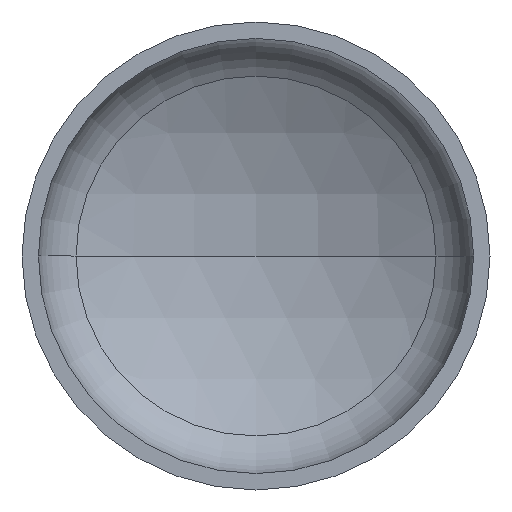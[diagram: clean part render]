
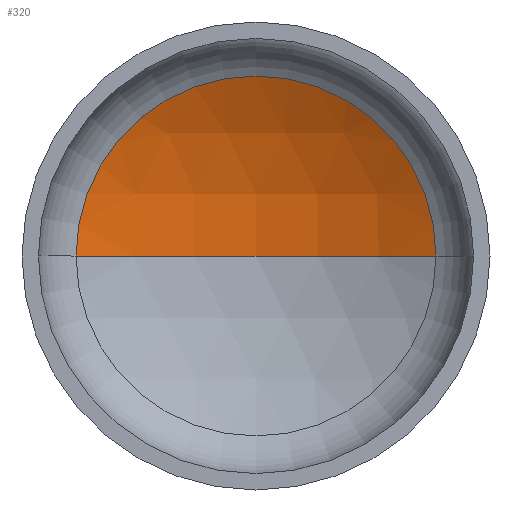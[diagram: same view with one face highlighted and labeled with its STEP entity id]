
A CAD part, front view. The second image highlights one B-rep face of the part: STEP entity #320.
In plain terms, the highlighted spherical face has radius 800 mm.
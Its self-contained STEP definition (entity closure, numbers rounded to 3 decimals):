
#10 = AXIS2_PLACEMENT_3D ( 'NONE', #154, #159, #140 ) ;
#13 = AXIS2_PLACEMENT_3D ( 'NONE', #274, #193, #395 ) ;
#15 = EDGE_LOOP ( 'NONE', ( #78, #64, #17 ) ) ;
#17 = ORIENTED_EDGE ( 'NONE', *, *, #369, .T. ) ;
#23 = VERTEX_POINT ( 'NONE', #377 ) ;
#25 = AXIS2_PLACEMENT_3D ( 'NONE', #161, #325, #188 ) ;
#30 = AXIS2_PLACEMENT_3D ( 'NONE', #48, #92, #74 ) ;
#48 = CARTESIAN_POINT ( 'NONE',  ( 0., -455.619, 0. ) ) ;
#64 = ORIENTED_EDGE ( 'NONE', *, *, #373, .T. ) ;
#74 = DIRECTION ( 'NONE',  ( -1., 0., 0. ) ) ;
#78 = ORIENTED_EDGE ( 'NONE', *, *, #353, .F. ) ;
#92 = DIRECTION ( 'NONE',  ( 0., 0., -1. ) ) ;
#117 = VERTEX_POINT ( 'NONE', #160 ) ;
#134 = VERTEX_POINT ( 'NONE', #294 ) ;
#139 = FACE_OUTER_BOUND ( 'NONE', #15, .T. ) ;
#140 = DIRECTION ( 'NONE',  ( -1., 0., 0. ) ) ;
#154 = CARTESIAN_POINT ( 'NONE',  ( 0., -455.619, 0. ) ) ;
#159 = DIRECTION ( 'NONE',  ( 0., 0., -1. ) ) ;
#160 = CARTESIAN_POINT ( 'NONE',  ( 384.496, 245.924, 0. ) ) ;
#161 = CARTESIAN_POINT ( 'NONE',  ( 0., -455.619, 0. ) ) ;
#188 = DIRECTION ( 'NONE',  ( 1., 0., 0. ) ) ;
#193 = DIRECTION ( 'NONE',  ( 0., -1., 0. ) ) ;
#203 = CIRCLE ( 'NONE', #25, 800. ) ;
#255 = CIRCLE ( 'NONE', #13, 384.496 ) ;
#274 = CARTESIAN_POINT ( 'NONE',  ( 0., 245.924, 0. ) ) ;
#294 = CARTESIAN_POINT ( 'NONE',  ( -384.496, 245.924, 0. ) ) ;
#320 = ADVANCED_FACE ( 'NONE', ( #139 ), #394, .F. ) ;
#325 = DIRECTION ( 'NONE',  ( 0., 0., 1. ) ) ;
#353 = EDGE_CURVE ( 'NONE', #23, #134, #203, .T. ) ;
#369 = EDGE_CURVE ( 'NONE', #117, #134, #255, .T. ) ;
#373 = EDGE_CURVE ( 'NONE', #23, #117, #375, .T. ) ;
#375 = CIRCLE ( 'NONE', #10, 800. ) ;
#377 = CARTESIAN_POINT ( 'NONE',  ( 0., 344.381, 0. ) ) ;
#394 = SPHERICAL_SURFACE ( 'NONE', #30, 800. ) ;
#395 = DIRECTION ( 'NONE',  ( 1., 0., 0. ) ) ;
